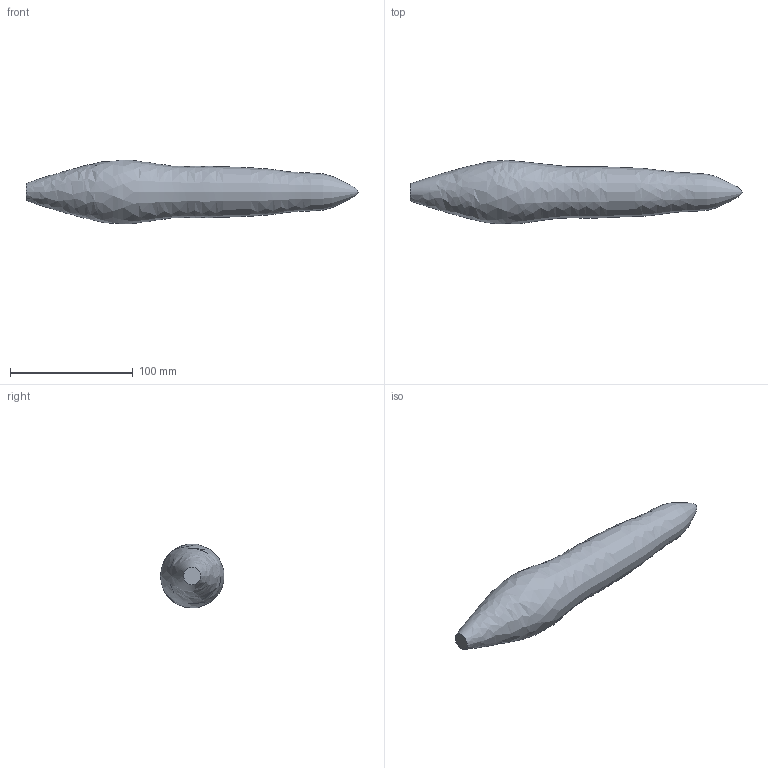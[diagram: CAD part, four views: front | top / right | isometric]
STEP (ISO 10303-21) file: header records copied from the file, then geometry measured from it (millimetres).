
FILE_DESCRIPTION((''),'2;1');
FILE_NAME('C:\Dokumente und Einstellungen\Kramp\Eigene Dateien\Microsonic Nacharbeit 2\restliche Änderungen\STP\Schallfeld Betriebstastw 240 mm Rohr.stp','2005-08-11T08:22:36',('Kramp'),(''),'Autodesk Inventor 7','Autodesk Inventor 7','');
FILE_SCHEMA(('AUTOMOTIVE_DESIGN { 1 0 10303 214 1 1 1 1 }'));
Length unit declared in the file: millimetre
Products named in the file (1): Schallfeld Betriebstastw 240 mm Rohr
Bounding box: 270 x 51.67 x 51.73 mm (x, y, z)
Volume: 315315.7 mm3; surface area: 32056.9 mm2
Topology: 1 solids, 1 shells, 2 faces, 3 edges, 2 vertices
Faces by surface type: bspline 1, plane 1
Entity records: 198 total; most frequent: CARTESIAN_POINT 145, DIRECTION 6, ORIENTED_EDGE 4, AXIS2_PLACEMENT_3D 3, VERTEX_POINT 2, EDGE_CURVE 2, EDGE_LOOP 2, FACE_OUTER_BOUND 2
